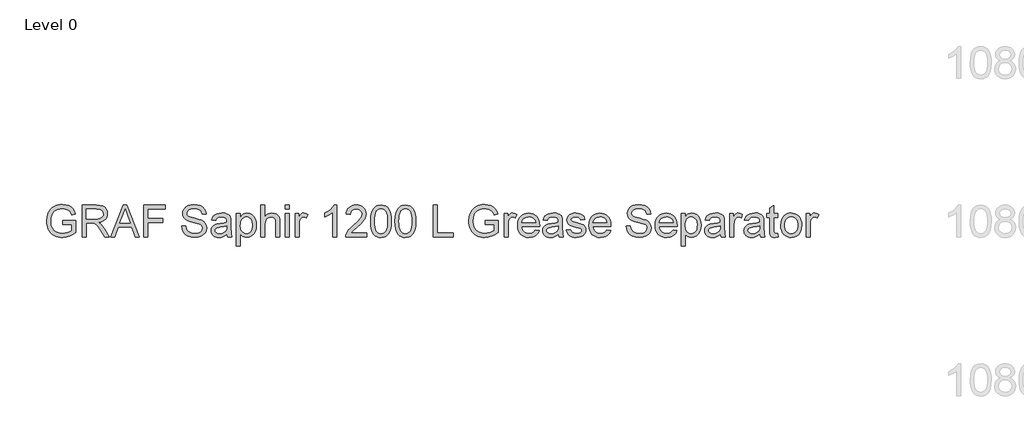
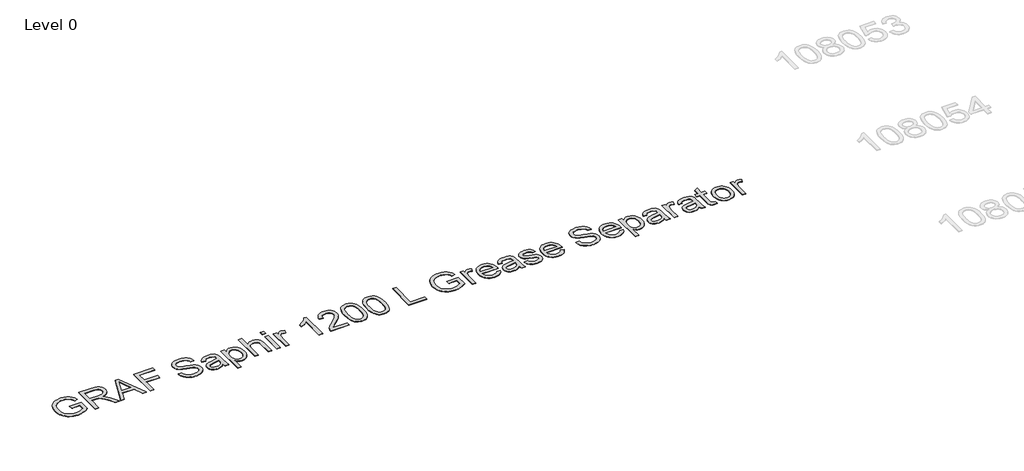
# One storey, part 1 of 15: 1 proxy.
"""IFC4 building model written with IfcOpenShell, lengths in millimetres."""

import ifcopenshell
import ifcopenshell.guid

model = None  # the IFC model being written
_history = None  # IfcOwnerHistory: only IFC2X3 demands one
_inside = {}  # id of a spatial element -> (the spatial element, [elements in it])
_under = {}  # id of a project, library or spatial element -> (it, [spatial elements below it])
_declared = {}  # id of a project -> (the project, [libraries it declares])
_typed = {}  # id of a type object -> (the type object, [elements of that type])
_made_of = {}  # id of a material, layer set ... -> (it, [elements and type objects made of it])


def new_model(schema):
    """Start an empty IFC model of exactly this schema.

    Asked for "IFC4X3", IfcOpenShell would pick the latest addendum, in which some entities
    have other attributes; the version numbers below select the first issue.
    IFC2X3 requires an IfcOwnerHistory on every rooted entity: one is made here for all.
    """
    global model, _history
    if schema == "IFC4X3":
        model = ifcopenshell.file(schema_version=(4, 3, 0, 0))
    else:
        model = ifcopenshell.file(schema=schema)
    _inside.clear()
    _under.clear()
    _declared.clear()
    _typed.clear()
    _made_of.clear()
    _history = None
    if model.schema == "IFC2X3":
        org = make("IfcOrganization", Name="unknown")
        user = make(
            "IfcPersonAndOrganization",
            ThePerson=make("IfcPerson", FamilyName="unknown"),
            TheOrganization=org,
        )
        app = make(
            "IfcApplication",
            ApplicationDeveloper=org,
            Version="unknown",
            ApplicationFullName="unknown",
            ApplicationIdentifier="unknown",
        )
        _history = make(
            "IfcOwnerHistory",
            OwningUser=user,
            OwningApplication=app,
            ChangeAction="ADDED",
            CreationDate=0,
        )
    return model


def make(cls, **values):
    """One entity of the class cls with the attributes given. An attribute that is None is left unset."""
    return model.create_entity(
        cls, **{name: value for name, value in values.items() if value is not None}
    )


def rooted(cls, **values):
    """An entity with a GlobalId (a new one), such as an element, a storey or a relation."""
    return make(cls, GlobalId=ifcopenshell.guid.new(), OwnerHistory=_history, **values)


def si_unit(unit_type, name, prefix=None):
    """IfcSIUnit, for example si_unit("LENGTHUNIT", "METRE", prefix="MILLI")."""
    return make("IfcSIUnit", UnitType=unit_type, Prefix=prefix, Name=name)


def assignment(units):
    """IfcUnitAssignment: the units of a project."""
    return None if units is None else make("IfcUnitAssignment", Units=units)


def point(xyz):
    """IfcCartesianPoint."""
    return None if xyz is None else make("IfcCartesianPoint", Coordinates=xyz)


def direction(xyz):
    """IfcDirection."""
    return None if xyz is None else make("IfcDirection", DirectionRatios=xyz)


def frame(location, z_axis=None, x_axis=None):
    """IfcAxis2Placement3D, a coordinate frame: its origin and axes. An axis left out is left unset."""
    return make(
        "IfcAxis2Placement3D",
        Location=point(location),
        Axis=direction(z_axis),
        RefDirection=direction(x_axis),
    )


def origin():
    """The frame at (0, 0, 0) with its axes left unset."""
    return frame((0.0, 0.0, 0.0))


def origin_with_axes():
    """The frame at (0, 0, 0) with the z axis (0, 0, 1) and the x axis (1, 0, 0) written out."""
    return frame((0.0, 0.0, 0.0), z_axis=(0.0, 0.0, 1.0), x_axis=(1.0, 0.0, 0.0))


def place(relative_to, where):
    """IfcLocalPlacement: puts the frame where relative to a parent placement (None: the world)."""
    return make(
        "IfcLocalPlacement", PlacementRelTo=relative_to, RelativePlacement=where
    )


def context(
    kind, dimensions, precision=None, world=None, true_north=None, identifier=None
):
    """IfcGeometricRepresentationContext, for example the 3D "Model" context."""
    return make(
        "IfcGeometricRepresentationContext",
        ContextIdentifier=identifier,
        ContextType=kind,
        CoordinateSpaceDimension=dimensions,
        Precision=precision,
        WorldCoordinateSystem=world,
        TrueNorth=true_north,
    )


def project(units=None, contexts=None):
    """IfcProject with its units and contexts."""
    return rooted(
        "IfcProject",
        Name="project",
        RepresentationContexts=contexts,
        UnitsInContext=assignment(units),
    )


def spatial(cls, under=None, at=None, **own):
    """A site, building, storey or space (cls), placed at a placement, below another one or the project."""
    s = rooted(cls, ObjectPlacement=at, **own)
    if under is not None:
        _under.setdefault(under.id(), (under, []))[1].append(s)
    return s


def polyline(points):
    """IfcPolyline through the points."""
    return make("IfcPolyline", Points=[point(p) for p in points])


def outline(outer, holes=None, kind="AREA"):
    """IfcArbitraryClosedProfileDef: a profile drawn as a closed curve; with holes, ...WithVoids."""
    if holes is None:
        return make("IfcArbitraryClosedProfileDef", ProfileType=kind, OuterCurve=outer)
    return make(
        "IfcArbitraryProfileDefWithVoids",
        ProfileType=kind,
        OuterCurve=outer,
        InnerCurves=holes,
    )


def extrude(swept, where, along, depth):
    """IfcExtrudedAreaSolid: the profile swept, set in the frame where, extruded along a direction by depth."""
    return make(
        "IfcExtrudedAreaSolid",
        SweptArea=swept,
        Position=where,
        ExtrudedDirection=direction(along),
        Depth=depth,
    )


def shape(context_of_items, identifier, shape_type, items):
    """IfcShapeRepresentation: the items that make up one representation, for example the "Body"."""
    return make(
        "IfcShapeRepresentation",
        ContextOfItems=context_of_items,
        RepresentationIdentifier=identifier,
        RepresentationType=shape_type,
        Items=items,
    )


def made_of(thing, what):
    """Note that an element or type object is made of a material, layer set ...; save() writes the relation."""
    if what is not None:
        _made_of.setdefault(what.id(), (what, []))[1].append(thing)
    return thing


def element(
    cls,
    number,
    at=None,
    inside=None,
    cuts=None,
    type_object=None,
    material=None,
    context=None,
    identifier="Body",
    shape_type=None,
    held_by="IfcProductDefinitionShape",
    body=None,
    shapes=None,
    **own,
):
    """One element of the class cls, such as IfcWall. Its Tag is "e" and its number.

    at: its placement. inside: the storey or other place that contains it. cuts: it is an
    opening in that element (IfcRelVoidsElement). A single representation is given by context,
    identifier, shape_type and body (its items); several are given by shapes. held_by: the class
    of the entity that holds the representations. save() writes the other relations.
    """
    e = rooted(cls, Tag="e%d" % number, ObjectPlacement=at, **own)
    if body is not None:
        shapes = [shape(context, identifier, shape_type, body)]
    if shapes is not None:
        e.Representation = make(held_by, Representations=shapes)
    if inside is not None:
        _inside.setdefault(inside.id(), (inside, []))[1].append(e)
    if cuts is not None:
        rooted(
            "IfcRelVoidsElement", RelatingBuildingElement=cuts, RelatedOpeningElement=e
        )
    if type_object is not None:
        _typed.setdefault(type_object.id(), (type_object, []))[1].append(e)
    return made_of(e, material)


def aggregate(whole, parts):
    """IfcRelAggregates: a whole, such as a stair, and the parts it consists of."""
    return rooted("IfcRelAggregates", RelatingObject=whole, RelatedObjects=parts)


def save(model, path):
    """Write the relations noted so far, then the file.

    IfcRelAggregates (storeys below a building ...), IfcRelContainedInSpatialStructure (elements
    in a storey), IfcRelDefinesByType, IfcRelAssociatesMaterial and IfcRelDeclares: one each for
    every whole, place, type object, material and project.
    """
    for whole, parts in _under.values():
        aggregate(whole, parts)
    for where, things in _inside.values():
        rooted(
            "IfcRelContainedInSpatialStructure",
            RelatedElements=things,
            RelatingStructure=where,
        )
    for kind, things in _typed.values():
        rooted("IfcRelDefinesByType", RelatedObjects=things, RelatingType=kind)
    for what, things in _made_of.values():
        rooted("IfcRelAssociatesMaterial", RelatedObjects=things, RelatingMaterial=what)
    for by, libraries in _declared.values():
        rooted("IfcRelDeclares", RelatingContext=by, RelatedDefinitions=libraries)
    model.write(path)


model = new_model("IFC4")

# Units and contexts
model_context = context("Model", 3, world=origin())
ifc_project = project(units=[si_unit("LENGTHUNIT", "METRE", prefix="MILLI")], contexts=[model_context])

# Site, building, storey
site = spatial("IfcSite", under=ifc_project)
building = spatial("IfcBuilding", under=site)
storey = spatial("IfcBuildingStorey", under=building, Name="Level 0", Elevation=0.0)

# Proxy
placement = place(None, origin())
element("IfcBuildingElementProxy", 1, Name="400mm Arial", ObjectType="400mm Arial", at=placement, inside=storey, context=model_context, shape_type="SweptSolid", body=[
    extrude(outline(polyline([(-14937.8149833, 2305.9861864), (-14937.8149833, 2356.2143415), (-14774.5734793, 2356.2143415), (-14774.5734793, 2206.0203856), (-14814.2434211, 2178.429236), (-14855.1641617, 2158.6371846), (-14897.2375993, 2146.717808), (-14940.3656318, 2142.7446824), (-14969.2167773, 2144.3235093), (-14996.7128907, 2149.05999), (-15022.8539722, 2156.9541245), (-15047.6400216, 2168.0059128), (-15070.2708957, 2182.0498079), (-15089.9464511, 2198.9202631), (-15106.6666877, 2218.6172783), (-15120.4316057, 2241.1408534), (-15131.182957, 2265.770553), (-15138.8624937, 2291.7859414), (-15143.4702157, 2319.1870187), (-15145.006123, 2347.9737848), (-15138.8870191, 2404.5662984), (-15131.2381393, 2431.3818302), (-15120.5297076, 2457.2102119), (-15106.9517963, 2480.9171408), (-15090.6944778, 2501.3683141), (-15071.7577521, 2518.5637317), (-15050.1416192, 2532.5033936), (-15026.3151286, 2543.2762047), (-15000.74733, 2550.9710698), (-14973.4382232, 2555.5879888), (-14944.3878083, 2557.1269618), (-14903.0133466, 2553.5585065), (-14865.8082141, 2542.8531404), (-14834.4769309, 2525.7834158), (-14810.7240167, 2503.1218849), (-14793.1515201, 2473.7771644), (-14780.3614894, 2436.6578711), (-14826.6655698, 2423.610323), (-14837.0030539, 2450.0855639), (-14849.5723554, 2470.0615563), (-14866.2006216, 2485.1201926), (-14888.7149997, 2496.8433655), (-14915.5581226, 2504.3849464), (-14945.1726232, 2506.8988067), (-14979.8393699, 2504.1887427), (-15009.478396, 2496.0585506), (-15033.9793369, 2483.5260373), (-15053.2318279, 2467.6090096), (-15068.0084214, 2449.1290708), (-15079.0816695, 2428.9078238), (-15090.8538933, 2390.9914528), (-15094.7779679, 2350.033924), (-15090.0568157, 2302.0007981), (-15075.8933588, 2262.4780091), (-15052.7167931, 2231.7475998), (-15020.9563142, 2210.091613), (-14983.78797, 2197.2525314), (-14944.3878083, 2192.9728375), (-14909.5984343, 2196.1979363), (-14875.6674516, 2205.8732328), (-14846.2001038, 2219.2028238), (-14824.8016344, 2233.390806), (-14824.8016344, 2305.9861864), (-14937.8149833, 2305.9861864)])), origin_with_axes(), (0.0, 0.0, 1.0), 5.0),
    extrude(outline(polyline([(-14692.9527273, 2149.0232018), (-14692.9527273, 2550.8484424), (-14519.8029349, 2550.8484424), (-14473.2658625, 2548.1383784), (-14439.4084563, 2540.0081863), (-14414.6622607, 2524.9986009), (-14395.4588206, 2501.6503569), (-14383.1347737, 2472.6980439), (-14379.0267581, 2440.8762513), (-14380.7282123, 2420.2380714), (-14385.832575, 2401.2921486), (-14394.3398462, 2384.0384831), (-14406.2500258, 2368.4770747), (-14421.716398, 2355.1045642), (-14440.892247, 2344.4175922), (-14463.7775727, 2336.4161588), (-14490.3723753, 2331.100264), (-14461.8247325, 2309.6159554), (-14421.1124584, 2257.9162724), (-14354.1088843, 2149.0232018), (-14412.4794942, 2149.0232018), (-14464.7677885, 2232.3116855), (-14502.5370066, 2287.4449339), (-14516.5778361, 2303.5213771), (-14529.0735612, 2313.4909791), (-14552.9613654, 2323.055911), (-14582.0976194, 2324.8217446), (-14642.7245723, 2324.8217446), (-14642.7245723, 2149.0232018), (-14692.9527273, 2149.0232018)]), holes=[polyline([(-14642.7245723, 2375.0498997), (-14530.2998345, 2375.0498997), (-14498.0120581, 2376.827996), (-14472.9592942, 2382.1622849), (-14454.0992106, 2391.4083857), (-14440.3894749, 2404.9219177), (-14432.0385536, 2421.268141), (-14429.2549132, 2439.0123159), (-14434.5646766, 2463.5132568), (-14450.493967, 2483.2562572), (-14462.6555327, 2490.8530204), (-14477.9011757, 2496.2792798), (-14517.6446939, 2500.6202873), (-14642.7245723, 2500.6202873), (-14642.7245723, 2375.0498997)])]), origin_with_axes(), (0.0, 0.0, 1.0), 5.0),
    extrude(outline(polyline([(-14337.9220765, 2149.0232018), (-14177.5255266, 2550.8484424), (-14134.7531133, 2550.8484424), (-13974.3565634, 2149.0232018), (-14027.4296726, 2149.0232018), (-14073.4394475, 2274.5935895), (-14238.9372943, 2274.5935895), (-14284.8489673, 2149.0232018), (-14337.9220765, 2149.0232018)]), holes=[polyline([(-14220.4941437, 2324.8217446), (-14091.7844963, 2324.8217446), (-14127.9840846, 2423.610323), (-14156.13932, 2500.6202873), (-14181.1552956, 2432.2432872), (-14220.4941437, 2324.8217446)])]), origin_with_axes(), (0.0, 0.0, 1.0), 5.0),
    extrude(outline(polyline([(-13920.6948431, 2149.0232018), (-13920.6948431, 2550.8484424), (-13650.7185095, 2550.8484424), (-13650.7185095, 2500.6202873), (-13870.466688, 2500.6202873), (-13870.466688, 2381.328419), (-13682.1111064, 2381.328419), (-13682.1111064, 2331.100264), (-13870.466688, 2331.100264), (-13870.466688, 2149.0232018), (-13920.6948431, 2149.0232018)])), origin_with_axes(), (0.0, 0.0, 1.0), 5.0),
    extrude(outline(polyline([(-13443.5273698, 2287.1506283), (-13393.2992148, 2287.1506283), (-13387.5357302, 2259.2774358), (-13377.112407, 2236.8734223), (-13360.8520228, 2219.0924592), (-13337.5773552, 2205.0884179), (-13309.1278143, 2196.0017326), (-13277.3428099, 2192.9728375), (-13249.3592528, 2195.2659686), (-13224.8583119, 2202.1453619), (-13205.0049469, 2213.034669), (-13190.9641174, 2227.3575413), (-13182.6131961, 2243.8018665), (-13179.8295557, 2261.0555321), (-13181.9142203, 2277.8677393), (-13188.1682143, 2292.3990781), (-13200.8724058, 2304.7967013), (-13222.3076634, 2315.2077618), (-13295.4426041, 2334.3866765), (-13343.4512044, 2347.0786053), (-13374.169351, 2359.1573975), (-13399.173064, 2376.0554438), (-13416.8927134, 2396.5342082), (-13427.4509267, 2420.1522323), (-13430.9703311, 2446.4680577), (-13426.6170608, 2475.8863545), (-13413.55725, 2503.3180886), (-13392.1342551, 2526.5682307), (-13362.6914328, 2543.4417516), (-13327.3502358, 2553.7056592), (-13288.2321169, 2557.1269618), (-13245.8521111, 2553.5462437), (-13208.769606, 2542.8040895), (-13178.3089768, 2525.1212282), (-13155.7945987, 2500.7183892), (-13141.5453027, 2471.1161513), (-13135.87992, 2437.8350935), (-13186.1080751, 2437.8350935), (-13195.3296504, 2467.8052134), (-13203.6928345, 2479.6632764), (-13214.557616, 2489.4366747), (-13244.6013123, 2502.5332737), (-13286.2700796, 2506.8988067), (-13328.9198656, 2502.5823247), (-13345.2231694, 2497.1867221), (-13358.178747, 2489.6328784), (-13375.1013187, 2470.5765911), (-13380.742176, 2447.9395856), (-13376.744525, 2428.6380436), (-13364.7515719, 2413.1134234), (-13336.4001328, 2399.2320095), (-13282.7384125, 2385.0562899), (-13227.3599095, 2371.5918089), (-13193.8581224, 2359.8441105), (-13165.2246405, 2341.621689), (-13145.2486482, 2319.1318364), (-13133.5132125, 2292.6198073), (-13129.6014006, 2262.3308563), (-13134.1018237, 2231.3674551), (-13147.6030929, 2202.2434638), (-13169.5533853, 2177.1784372), (-13199.4008778, 2158.39193), (-13235.2938978, 2146.6564943), (-13275.3807726, 2142.7446824), (-13324.5911208, 2146.9630626), (-13365.0949285, 2159.6182033), (-13397.3581794, 2180.7591553), (-13421.8468576, 2210.4349695), (-13437.5676815, 2246.5855069), (-13443.5273698, 2287.1506283)])), origin_with_axes(), (0.0, 0.0, 1.0), 5.0),
    extrude(outline(polyline([(-12872.1821059, 2186.6943181), (-12896.1802747, 2166.1174519), (-12920.889682, 2152.6529708), (-12946.8744136, 2145.2217545), (-12974.6985552, 2142.7446824), (-12997.0627148, 2144.2346045), (-13016.6738908, 2148.7043708), (-13033.5320833, 2156.1539812), (-13047.6372921, 2166.5834357), (-13058.7749195, 2179.3305469), (-13066.7303676, 2193.733127), (-13071.5036365, 2209.7911761), (-13073.0947262, 2227.5046941), (-13070.6912305, 2248.3268151), (-13063.4807434, 2267.2359496), (-13052.3584444, 2283.4227574), (-13038.219513, 2296.077898), (-13021.6035096, 2305.6428299), (-13003.0499943, 2312.5590114), (-12959.5908679, 2320.112855), (-12908.2345414, 2328.0591061), (-12872.4764115, 2337.3787834), (-12872.1821059, 2348.562396), (-12875.6401966, 2370.9786722), (-12886.0144689, 2385.6449011), (-12909.21556, 2396.5342082), (-12941.5401247, 2400.1639772), (-12971.4611936, 2397.7482188), (-12992.356891, 2390.5009435), (-13006.6061869, 2377.0977761), (-13016.5880517, 2356.2143415), (-13066.8162068, 2362.4928609), (-13058.0974035, 2389.9613832), (-13045.0866436, 2411.5437936), (-13026.5699165, 2428.0494324), (-13001.3332116, 2440.2876401), (-12970.4679122, 2447.8660092), (-12935.0654016, 2450.3921323), (-12901.1098934, 2448.1603148), (-12874.1931941, 2441.4648625), (-12853.8983707, 2431.3971586), (-12839.8084903, 2419.0485863), (-12830.4642876, 2403.7814835), (-12824.4064974, 2384.9581881), (-12821.9539508, 2341.0085524), (-12821.9539508, 2278.5176641), (-12819.4033023, 2191.2560549), (-12809.396912, 2149.0232018), (-12859.6250671, 2149.0232018), (-12867.6694201, 2166.4853339), (-12872.1821059, 2186.6943181)]), holes=[polyline([(-12872.1821059, 2287.1506283), (-12905.9291476, 2278.7874443), (-12953.2142467, 2271.7486354), (-12996.4281184, 2263.6061806), (-13007.6730447, 2258.0388997), (-13015.9994405, 2250.3624288), (-13021.1497884, 2241.1653789), (-13022.8665711, 2231.0363613), (-13019.1264375, 2216.1003523), (-13007.9060366, 2203.8621446), (-12989.4506232, 2195.6951643), (-12964.0054519, 2192.9728375), (-12937.0274389, 2195.9772071), (-12913.1886856, 2204.990316), (-12893.8626181, 2218.270856), (-12880.4226626, 2234.0775191), (-12874.4629742, 2250.3624288), (-12872.4764115, 2272.9258578), (-12872.1821059, 2287.1506283)])]), origin_with_axes(), (0.0, 0.0, 1.0), 5.0),
    extrude(outline(polyline([(-12752.8902376, 2036.0098529), (-12752.8902376, 2444.1136129), (-12702.6620825, 2444.1136129), (-12702.6620825, 2394.8664765), (-12686.279071, 2419.1589509), (-12667.9340221, 2436.5107183), (-12646.5478155, 2446.9217788), (-12621.0413305, 2450.3921323), (-12587.0735596, 2445.5360899), (-12557.3732199, 2430.9679629), (-12533.19111, 2407.570668), (-12515.7780289, 2376.227122), (-12505.2566039, 2339.2181933), (-12501.7494622, 2298.8247503), (-12505.710325, 2255.868396), (-12517.5929134, 2217.4492529), (-12537.0170828, 2185.5170957), (-12563.6026883, 2162.021699), (-12594.5660896, 2147.5639366), (-12627.1236461, 2142.7446824), (-12650.2143727, 2145.9697813), (-12670.8280272, 2155.6450777), (-12688.4741002, 2170.2499929), (-12702.6620825, 2188.263948), (-12702.6620825, 2036.0098529), (-12752.8902376, 2036.0098529)]), holes=[polyline([(-12702.6620825, 2294.2139626), (-12697.2296917, 2249.1852064), (-12690.4392032, 2231.7475998), (-12680.9325193, 2217.6945076), (-12656.8852996, 2199.153255), (-12643.1234473, 2194.5179419), (-12628.2027667, 2192.9728375), (-12613.0674882, 2194.5731242), (-12599.0542499, 2199.3739842), (-12586.1630517, 2207.3754176), (-12574.3938935, 2218.5774244), (-12564.5867726, 2233.13942), (-12557.5816863, 2251.2208201), (-12553.3786345, 2272.8216246), (-12551.9776173, 2297.9418335), (-12557.4467963, 2342.725335), (-12564.28327, 2360.2978317), (-12573.8543332, 2374.6574922), (-12597.8647648, 2393.7873559), (-12611.4702673, 2398.5698219), (-12626.1426275, 2400.1639772), (-12640.7690025, 2398.4686543), (-12654.5308548, 2393.3826858), (-12679.4609913, 2373.0388114), (-12689.6114687, 2357.9403212), (-12696.8618097, 2339.7700163), (-12701.2120143, 2318.5278968), (-12702.6620825, 2294.2139626)])]), origin_with_axes(), (0.0, 0.0, 1.0), 5.0),
    extrude(outline(polyline([(-12445.2427877, 2149.0232018), (-12445.2427877, 2550.8484424), (-12395.0146327, 2550.8484424), (-12395.0146327, 2403.1070332), (-12376.5653506, 2423.794264), (-12355.8474629, 2438.5708575), (-12332.8609696, 2447.4368136), (-12307.6058706, 2450.3921323), (-12277.2678687, 2447.1670334), (-12251.197298, 2437.491737), (-12230.6694827, 2422.1265323), (-12216.959747, 2401.8317089), (-12209.2342251, 2373.9462537), (-12206.6590511, 2335.8091535), (-12206.6590511, 2149.0232018), (-12256.8872062, 2149.0232018), (-12256.8872062, 2330.6097546), (-12260.8848572, 2362.0514025), (-12272.8778103, 2383.5847619), (-12292.2038777, 2396.0191734), (-12318.2008721, 2400.1639772), (-12339.4276632, 2397.368074), (-12359.3546046, 2388.9803645), (-12375.8602434, 2375.8101891), (-12386.8231269, 2358.6668881), (-12392.9667562, 2335.8827299), (-12395.0146327, 2305.7899827), (-12395.0146327, 2149.0232018), (-12445.2427877, 2149.0232018)])), origin_with_axes(), (0.0, 0.0, 1.0), 5.0),
    extrude(outline(polyline([(-12137.5953379, 2500.6202873), (-12137.5953379, 2550.8484424), (-12087.3671828, 2550.8484424), (-12087.3671828, 2500.6202873), (-12137.5953379, 2500.6202873)])), origin_with_axes(), (0.0, 0.0, 1.0), 5.0),
    extrude(outline(polyline([(-12137.5953379, 2149.0232018), (-12137.5953379, 2444.1136129), (-12087.3671828, 2444.1136129), (-12087.3671828, 2149.0232018), (-12137.5953379, 2149.0232018)])), origin_with_axes(), (0.0, 0.0, 1.0), 5.0),
    extrude(outline(polyline([(-12012.0249502, 2149.0232018), (-12012.0249502, 2444.1136129), (-11968.0753145, 2444.1136129), (-11968.0753145, 2400.4582828), (-11951.8394558, 2425.7685641), (-11936.8789213, 2440.6800476), (-11921.8693359, 2447.9641111), (-11905.4863244, 2450.3921323), (-11880.4703487, 2446.5171086), (-11855.0619656, 2434.8920375), (-11871.8373846, 2389.8632813), (-11889.4957204, 2397.5888032), (-11907.1540561, 2400.1639772), (-11922.1513788, 2397.6869051), (-11935.5545461, 2390.2556888), (-11946.3825395, 2378.434414), (-11953.6543403, 2362.7871665), (-11959.7611814, 2334.730033), (-11961.7967951, 2304.122251), (-11961.7967951, 2149.0232018), (-12012.0249502, 2149.0232018)])), origin_with_axes(), (0.0, 0.0, 1.0), 5.0),
    extrude(outline(polyline([(-11490.9078413, 2149.0232018), (-11541.1359964, 2149.0232018), (-11541.1359964, 2462.1643561), (-11562.1052701, 2445.2049961), (-11588.7154011, 2428.2701616), (-11641.5923065, 2402.9108294), (-11641.5923065, 2450.3921323), (-11602.1430939, 2471.8519153), (-11567.9668566, 2497.3829258), (-11541.0256318, 2524.532617), (-11523.2814569, 2550.8484424), (-11490.9078413, 2550.8484424), (-11490.9078413, 2149.0232018)])), origin_with_axes(), (0.0, 0.0, 1.0), 5.0),
    extrude(outline(polyline([(-11114.1966782, 2199.2513569), (-11114.1966782, 2149.0232018), (-11377.8944924, 2149.0232018), (-11376.7908464, 2166.7060631), (-11372.4988898, 2183.6531603), (-11360.1135293, 2210.7170124), (-11341.9892097, 2236.9715241), (-11315.7714861, 2264.4523092), (-11279.105914, 2295.1949812), (-11224.9046333, 2343.3384717), (-11192.383865, 2378.8758724), (-11176.1234808, 2407.7178208), (-11170.7033527, 2435.7749543), (-11175.8169124, 2460.9258201), (-11191.1575916, 2481.8337801), (-11214.7388275, 2495.9236605), (-11244.5740573, 2500.6202873), (-11275.9053406, 2496.0340251), (-11300.2468659, 2482.2752385), (-11315.9554271, 2460.423048), (-11321.3878179, 2431.5565741), (-11371.615973, 2437.8350935), (-11367.2964252, 2463.7646428), (-11359.439079, 2486.4200423), (-11348.0439342, 2505.8012921), (-11333.1109908, 2521.9083921), (-11314.9836055, 2534.5696641), (-11294.0051348, 2543.6134298), (-11270.1755785, 2549.0396893), (-11243.4949368, 2550.8484424), (-11216.5751718, 2548.8373542), (-11192.6168569, 2542.8040895), (-11171.619992, 2532.7486483), (-11153.5845772, 2518.6710306), (-11139.0992236, 2501.6135687), (-11128.7525425, 2482.618595), (-11122.5445339, 2461.6861095), (-11120.4751976, 2438.8161122), (-11122.7070151, 2414.7934179), (-11129.4024674, 2391.1876565), (-11141.2850558, 2367.177225), (-11159.0782817, 2341.9405201), (-11187.4419835, 2311.8109847), (-11231.0359999, 2273.1220615), (-11288.8179986, 2224.8068928), (-11311.4795295, 2199.2513569), (-11114.1966782, 2199.2513569)])), origin_with_axes(), (0.0, 0.0, 1.0), 5.0),
    extrude(outline(polyline([(-11063.9685232, 2346.6984606), (-11060.2774405, 2411.0164961), (-11049.2041924, 2462.3115089), (-11030.8591436, 2501.3683141), (-11019.0010806, 2516.6016944), (-11005.3526586, 2528.9717264), (-10989.8678923, 2538.5427897), (-10972.5007964, 2545.3792634), (-10932.1196161, 2550.8484424), (-10901.1684776, 2547.6110809), (-10873.4547006, 2537.8989962), (-10850.2781349, 2522.0923331), (-10832.9386302, 2500.5712364), (-10819.8420312, 2473.519647), (-10809.3941825, 2441.121506), (-10802.5515774, 2399.9800362), (-10800.270709, 2346.6984606), (-10803.9250035, 2282.7483071), (-10814.887887, 2231.5759215), (-10833.1225712, 2192.4823282), (-10844.953043, 2177.2029627), (-10858.592268, 2164.7685512), (-10874.0954284, 2155.1331086), (-10891.5177066, 2148.2506496), (-10932.1196161, 2142.7446824), (-10959.7843421, 2145.1359154), (-10984.3098085, 2152.3096143), (-11005.6960151, 2164.2657792), (-11023.9429621, 2181.0044099), (-11041.4541451, 2211.262704), (-11053.9621329, 2248.9644772), (-11061.4669256, 2294.1097294), (-11063.9685232, 2346.6984606)]), holes=[polyline([(-11013.7403681, 2346.7965624), (-11012.2688401, 2303.1320353), (-11007.8542562, 2267.7877726), (-11000.4966163, 2240.7637744), (-10990.1959204, 2222.0600406), (-10977.7369835, 2209.3343892), (-10963.9046205, 2200.2446383), (-10948.6988314, 2194.7907877), (-10932.1196161, 2192.9728375), (-10915.5404009, 2194.7969191), (-10900.3346117, 2200.2691637), (-10886.5022487, 2209.3895715), (-10874.0433118, 2222.1581425), (-10863.7426159, 2240.8925331), (-10856.384976, 2267.9103999), (-10851.9703921, 2303.2117431), (-10850.4988641, 2346.7965624), (-10851.9213412, 2389.305327), (-10856.1887723, 2424.0272559), (-10863.3011575, 2450.9623494), (-10873.2584969, 2470.1106072), (-10885.5089673, 2483.4585923), (-10899.5007459, 2492.9928673), (-10915.2338325, 2498.7134323), (-10932.7082273, 2500.6202873), (-10949.2016034, 2498.9402929), (-10964.1498751, 2493.9003096), (-10977.5530425, 2485.5003373), (-10989.4111055, 2473.7403762), (-11000.0551579, 2452.8937298), (-11007.6580524, 2424.7875454), (-11012.2197892, 2389.4218229), (-11013.7403681, 2346.7965624)])]), origin_with_axes(), (0.0, 0.0, 1.0), 5.0),
    extrude(outline(polyline([(-10756.3210733, 2346.6984606), (-10752.6299907, 2411.0164961), (-10741.5567426, 2462.3115089), (-10723.2116938, 2501.3683141), (-10711.3536308, 2516.6016944), (-10697.7052088, 2528.9717264), (-10682.2204425, 2538.5427897), (-10664.8533466, 2545.3792634), (-10624.4721663, 2550.8484424), (-10593.5210277, 2547.6110809), (-10565.8072508, 2537.8989962), (-10542.6306851, 2522.0923331), (-10525.2911804, 2500.5712364), (-10512.1945813, 2473.519647), (-10501.7467327, 2441.121506), (-10494.9041276, 2399.9800362), (-10492.6232592, 2346.6984606), (-10496.2775537, 2282.7483071), (-10507.2404371, 2231.5759215), (-10525.4751214, 2192.4823282), (-10537.3055932, 2177.2029627), (-10550.9448182, 2164.7685512), (-10566.4479786, 2155.1331086), (-10583.8702567, 2148.2506496), (-10624.4721663, 2142.7446824), (-10652.1368923, 2145.1359154), (-10676.6623587, 2152.3096143), (-10698.0485653, 2164.2657792), (-10716.2955123, 2181.0044099), (-10733.8066952, 2211.262704), (-10746.3146831, 2248.9644772), (-10753.8194758, 2294.1097294), (-10756.3210733, 2346.6984606)]), holes=[polyline([(-10706.0929183, 2346.7965624), (-10704.6213903, 2303.1320353), (-10700.2068063, 2267.7877726), (-10692.8491664, 2240.7637744), (-10682.5484706, 2222.0600406), (-10670.0895337, 2209.3343892), (-10656.2571707, 2200.2446383), (-10641.0513815, 2194.7907877), (-10624.4721663, 2192.9728375), (-10607.892951, 2194.7969191), (-10592.6871619, 2200.2691637), (-10578.8547989, 2209.3895715), (-10566.395862, 2222.1581425), (-10556.0951661, 2240.8925331), (-10548.7375262, 2267.9103999), (-10544.3229423, 2303.2117431), (-10542.8514143, 2346.7965624), (-10544.2738913, 2389.305327), (-10548.5413225, 2424.0272559), (-10555.6537077, 2450.9623494), (-10565.611047, 2470.1106072), (-10577.8615175, 2483.4585923), (-10591.853296, 2492.9928673), (-10607.5863827, 2498.7134323), (-10625.0607775, 2500.6202873), (-10641.5541536, 2498.9402929), (-10656.5024253, 2493.9003096), (-10669.9055927, 2485.5003373), (-10681.7636557, 2473.7403762), (-10692.407708, 2452.8937298), (-10700.0106026, 2424.7875454), (-10704.5723394, 2389.4218229), (-10706.0929183, 2346.7965624)])]), origin_with_axes(), (0.0, 0.0, 1.0), 5.0),
    extrude(outline(polyline([(-10272.8750807, 2149.0232018), (-10272.8750807, 2550.8484424), (-10222.6469257, 2550.8484424), (-10222.6469257, 2199.2513569), (-10021.7343054, 2199.2513569), (-10021.7343054, 2149.0232018), (-10272.8750807, 2149.0232018)])), origin_with_axes(), (0.0, 0.0, 1.0), 5.0),
    extrude(outline(polyline([(-9619.9090648, 2305.9861864), (-9619.9090648, 2356.2143415), (-9456.6675608, 2356.2143415), (-9456.6675608, 2206.0203856), (-9496.3375026, 2178.429236), (-9537.2582432, 2158.6371846), (-9579.3316807, 2146.717808), (-9622.4597133, 2142.7446824), (-9651.3108587, 2144.3235093), (-9678.8069722, 2149.05999), (-9704.9480536, 2156.9541245), (-9729.7341031, 2168.0059128), (-9752.3649771, 2182.0498079), (-9772.0405325, 2198.9202631), (-9788.7607692, 2218.6172783), (-9802.5256872, 2241.1408534), (-9813.2770385, 2265.770553), (-9820.9565751, 2291.7859414), (-9825.5642971, 2319.1870187), (-9827.1002045, 2347.9737848), (-9820.9811006, 2404.5662984), (-9813.3322208, 2431.3818302), (-9802.623789, 2457.2102119), (-9789.0458777, 2480.9171408), (-9772.7885592, 2501.3683141), (-9753.8518335, 2518.5637317), (-9732.2357006, 2532.5033936), (-9708.4092101, 2543.2762047), (-9682.8414114, 2550.9710698), (-9655.5323046, 2555.5879888), (-9626.4818898, 2557.1269618), (-9585.107428, 2553.5585065), (-9547.9022956, 2542.8531404), (-9516.5710123, 2525.7834158), (-9492.8180982, 2503.1218849), (-9475.2456015, 2473.7771644), (-9462.4555708, 2436.6578711), (-9508.7596513, 2423.610323), (-9519.0971354, 2450.0855639), (-9531.6664369, 2470.0615563), (-9548.294703, 2485.1201926), (-9570.8090812, 2496.8433655), (-9597.6522041, 2504.3849464), (-9627.2667047, 2506.8988067), (-9661.9334514, 2504.1887427), (-9691.5724774, 2496.0585506), (-9716.0734183, 2483.5260373), (-9735.3259094, 2467.6090096), (-9750.1025029, 2449.1290708), (-9761.1757509, 2428.9078238), (-9772.9479748, 2390.9914528), (-9776.8720494, 2350.033924), (-9772.1508971, 2302.0007981), (-9757.9874403, 2262.4780091), (-9734.8108746, 2231.7475998), (-9703.0503957, 2210.091613), (-9665.8820514, 2197.2525314), (-9626.4818898, 2192.9728375), (-9591.6925157, 2196.1979363), (-9557.7615331, 2205.8732328), (-9528.2941852, 2219.2028238), (-9506.8957159, 2233.390806), (-9506.8957159, 2305.9861864), (-9619.9090648, 2305.9861864)])), origin_with_axes(), (0.0, 0.0, 1.0), 5.0),
    extrude(outline(polyline([(-9381.3253282, 2149.0232018), (-9381.3253282, 2444.1136129), (-9337.3756925, 2444.1136129), (-9337.3756925, 2400.4582828), (-9321.1398338, 2425.7685641), (-9306.1792993, 2440.6800476), (-9291.1697139, 2447.9641111), (-9274.7867024, 2450.3921323), (-9249.7707267, 2446.5171086), (-9224.3623436, 2434.8920375), (-9241.1377625, 2389.8632813), (-9258.7960983, 2397.5888032), (-9276.4544341, 2400.1639772), (-9291.4517567, 2397.6869051), (-9304.8549241, 2390.2556888), (-9315.6829175, 2378.434414), (-9322.9547183, 2362.7871665), (-9329.0615594, 2334.730033), (-9331.0971731, 2304.122251), (-9331.0971731, 2149.0232018), (-9381.3253282, 2149.0232018)])), origin_with_axes(), (0.0, 0.0, 1.0), 5.0),
    extrude(outline(polyline([(-8986.3672181, 2236.9224732), (-8937.1200817, 2230.6439538), (-8944.6708597, 2210.9193475), (-8954.8642566, 2193.5369232), (-8967.7002726, 2178.496681), (-8983.1789075, 2165.7986208), (-9001.1407459, 2155.7125228), (-9021.4263723, 2148.508167), (-9068.9689888, 2142.7446824), (-9100.1347252, 2145.2309516), (-9127.9036844, 2152.689759), (-9152.2758666, 2165.1211048), (-9173.2512717, 2182.5249888), (-9190.1186612, 2204.4170332), (-9202.1667965, 2230.31286), (-9209.3956777, 2260.2124692), (-9211.8053048, 2294.1158607), (-9209.3711523, 2329.1688835), (-9202.0686947, 2360.0648397), (-9189.897932, 2386.8037294), (-9172.8588642, 2409.3855525), (-9151.9386414, 2427.3259312), (-9128.1244136, 2440.1404873), (-9101.4161808, 2447.829221), (-9071.8139429, 2450.3921323), (-9043.1651325, 2447.8353524), (-9017.257043, 2440.1650128), (-8994.0896744, 2427.3811135), (-8973.6630266, 2409.4836544), (-8956.9887751, 2386.9508822), (-8945.0785956, 2360.2610435), (-8937.9324878, 2329.4141382), (-8935.5504519, 2294.4101663), (-8935.8447575, 2280.8721089), (-9161.5771497, 2280.8721089), (-9158.6678163, 2260.8286715), (-9152.8828719, 2243.274569), (-9144.2223166, 2228.2098013), (-9132.6861504, 2215.6343684), (-9118.9120353, 2205.7199486), (-9103.5376336, 2198.6382202), (-9067.9879701, 2192.9728375), (-9041.2552118, 2195.5970624), (-9018.7408337, 2203.4697371), (-9000.4448358, 2217.0813709), (-8986.3672181, 2236.9224732)]), holes=[polyline([(-9161.5771497, 2331.100264), (-8985.778607, 2331.100264), (-8992.5721611, 2357.6368186), (-9005.8894894, 2376.6195295), (-9019.5869623, 2386.9202254), (-9035.1728962, 2394.2778653), (-9052.6472909, 2398.6924492), (-9072.0101466, 2400.1639772), (-9105.8675529, 2395.4673504), (-9133.8633727, 2381.37747), (-9153.3243303, 2359.4149149), (-9161.5771497, 2331.100264)])]), origin_with_axes(), (0.0, 0.0, 1.0), 5.0),
    extrude(outline(polyline([(-8696.9667153, 2186.6943181), (-8720.9648841, 2166.1174519), (-8745.6742914, 2152.6529708), (-8771.659023, 2145.2217545), (-8799.4831646, 2142.7446824), (-8821.8473242, 2144.2346045), (-8841.4585002, 2148.7043708), (-8858.3166927, 2156.1539812), (-8872.4219015, 2166.5834357), (-8883.5595289, 2179.3305469), (-8891.5149771, 2193.733127), (-8896.2882459, 2209.7911761), (-8897.8793356, 2227.5046941), (-8895.4758399, 2248.3268151), (-8888.2653528, 2267.2359496), (-8877.1430538, 2283.4227574), (-8863.0041224, 2296.077898), (-8846.388119, 2305.6428299), (-8827.8346037, 2312.5590114), (-8784.3754773, 2320.112855), (-8733.0191508, 2328.0591061), (-8697.2610209, 2337.3787834), (-8696.9667153, 2348.562396), (-8700.424806, 2370.9786722), (-8710.7990783, 2385.6449011), (-8734.0001695, 2396.5342082), (-8766.3247341, 2400.1639772), (-8796.245803, 2397.7482188), (-8817.1415004, 2390.5009435), (-8831.3907963, 2377.0977761), (-8841.3726611, 2356.2143415), (-8891.6008162, 2362.4928609), (-8882.8820129, 2389.9613832), (-8869.871253, 2411.5437936), (-8851.3545259, 2428.0494324), (-8826.117821, 2440.2876401), (-8795.2525217, 2447.8660092), (-8759.850011, 2450.3921323), (-8725.8945028, 2448.1603148), (-8698.9778035, 2441.4648625), (-8678.6829801, 2431.3971586), (-8664.5930997, 2419.0485863), (-8655.248897, 2403.7814835), (-8649.1911068, 2384.9581881), (-8646.7385602, 2341.0085524), (-8646.7385602, 2278.5176641), (-8644.1879117, 2191.2560549), (-8634.1815214, 2149.0232018), (-8684.4096765, 2149.0232018), (-8692.4540295, 2166.4853339), (-8696.9667153, 2186.6943181)]), holes=[polyline([(-8696.9667153, 2287.1506283), (-8730.713757, 2278.7874443), (-8777.9988561, 2271.7486354), (-8821.2127278, 2263.6061806), (-8832.4576541, 2258.0388997), (-8840.7840499, 2250.3624288), (-8845.9343979, 2241.1653789), (-8847.6511805, 2231.0363613), (-8843.9110469, 2216.1003523), (-8832.690646, 2203.8621446), (-8814.2352326, 2195.6951643), (-8788.7900613, 2192.9728375), (-8761.8120483, 2195.9772071), (-8737.973295, 2204.990316), (-8718.6472275, 2218.270856), (-8705.207272, 2234.0775191), (-8699.2475836, 2250.3624288), (-8697.2610209, 2272.9258578), (-8696.9667153, 2287.1506283)])]), origin_with_axes(), (0.0, 0.0, 1.0), 5.0),
    extrude(outline(polyline([(-8596.5104051, 2236.9224732), (-8546.28225, 2243.2009926), (-8538.3605244, 2221.7166841), (-8523.032108, 2205.9222837), (-8500.1988988, 2196.2101991), (-8469.7627951, 2192.9728375), (-8439.6945733, 2195.9404189), (-8418.5536213, 2204.8431632), (-8406.0456335, 2217.7435585), (-8401.8763042, 2232.704093), (-8406.070159, 2245.5063864), (-8418.6517232, 2255.267522), (-8470.3514062, 2269.5903944), (-8545.9879445, 2294.1649117), (-8565.1300709, 2306.513484), (-8578.9992222, 2322.8597073), (-8587.4237198, 2342.1612493), (-8590.2318857, 2363.3757777), (-8587.9755428, 2382.8367352), (-8581.2065141, 2400.8016393), (-8570.5379363, 2416.5592514), (-8556.5829459, 2429.3983331), (-8524.6507887, 2444.2607657), (-8503.7673541, 2448.8592906), (-8481.436917, 2450.3921323), (-8448.7444704, 2447.9273229), (-8420.3194549, 2440.5328948), (-8397.4617203, 2428.9323492), (-8381.4711162, 2413.8491874), (-8370.8761147, 2394.1675007), (-8364.2051879, 2368.7713803), (-8414.433343, 2362.4928609), (-8420.773176, 2378.2995239), (-8433.3179521, 2390.2066379), (-8452.1902984, 2397.6746424), (-8477.5128424, 2400.1639772), (-8506.3547908, 2397.785007), (-8525.5827565, 2390.6480963), (-8536.3984871, 2380.3474004), (-8540.0037307, 2368.4770747), (-8534.0195169, 2353.8598967), (-8515.2820606, 2342.7743859), (-8472.019138, 2332.0812826), (-8398.2955861, 2308.4387331), (-8378.8223658, 2297.1324931), (-8364.0580351, 2281.6569238), (-8354.7506206, 2261.9629743), (-8351.6481491, 2238.0015937), (-8355.2901809, 2213.2308727), (-8366.2162761, 2189.9316797), (-8384.009502, 2169.9311619), (-8408.2529255, 2155.0564665), (-8437.5363323, 2145.8226285), (-8470.4495081, 2142.7446824), (-8497.4827034, 2144.2284732), (-8521.0945961, 2148.6798453), (-8541.2851863, 2156.0987989), (-8558.0544739, 2166.4853339), (-8571.7519468, 2179.7903994), (-8582.727093, 2195.9649444), (-8590.9799125, 2215.008969), (-8596.5104051, 2236.9224732)])), origin_with_axes(), (0.0, 0.0, 1.0), 5.0),
    extrude(outline(polyline([(-8088.5389462, 2236.9224732), (-8039.2918098, 2230.6439538), (-8046.8425877, 2210.9193475), (-8057.0359847, 2193.5369232), (-8069.8720006, 2178.496681), (-8085.3506356, 2165.7986208), (-8103.312474, 2155.7125228), (-8123.5981003, 2148.508167), (-8171.1407168, 2142.7446824), (-8202.3064532, 2145.2309516), (-8230.0754125, 2152.689759), (-8254.4475946, 2165.1211048), (-8275.4229997, 2182.5249888), (-8292.2903892, 2204.4170332), (-8304.3385246, 2230.31286), (-8311.5674058, 2260.2124692), (-8313.9770328, 2294.1158607), (-8311.5428803, 2329.1688835), (-8304.2404227, 2360.0648397), (-8292.06966, 2386.8037294), (-8275.0305923, 2409.3855525), (-8254.1103695, 2427.3259312), (-8230.2961417, 2440.1404873), (-8203.5879088, 2447.829221), (-8173.9856709, 2450.3921323), (-8145.3368606, 2447.8353524), (-8119.428771, 2440.1650128), (-8096.2614024, 2427.3811135), (-8075.8347546, 2409.4836544), (-8059.1605032, 2386.9508822), (-8047.2503236, 2360.2610435), (-8040.1042158, 2329.4141382), (-8037.7221799, 2294.4101663), (-8038.0164855, 2280.8721089), (-8263.7488778, 2280.8721089), (-8260.8395443, 2260.8286715), (-8255.0545999, 2243.274569), (-8246.3940446, 2228.2098013), (-8234.8578784, 2215.6343684), (-8221.0837634, 2205.7199486), (-8205.7093616, 2198.6382202), (-8170.1596982, 2192.9728375), (-8143.4269399, 2195.5970624), (-8120.9125618, 2203.4697371), (-8102.6165639, 2217.0813709), (-8088.5389462, 2236.9224732)]), holes=[polyline([(-8263.7488778, 2331.100264), (-8087.950335, 2331.100264), (-8094.7438892, 2357.6368186), (-8108.0612174, 2376.6195295), (-8121.7586903, 2386.9202254), (-8137.3446242, 2394.2778653), (-8154.819019, 2398.6924492), (-8174.1818747, 2400.1639772), (-8208.039281, 2395.4673504), (-8236.0351008, 2381.37747), (-8255.4960583, 2359.4149149), (-8263.7488778, 2331.100264)])]), origin_with_axes(), (0.0, 0.0, 1.0), 5.0),
    extrude(outline(polyline([(-7843.088079, 2287.1506283), (-7792.8599239, 2287.1506283), (-7787.0964393, 2259.2774358), (-7776.6731161, 2236.8734223), (-7760.412732, 2219.0924592), (-7737.1380644, 2205.0884179), (-7708.6885234, 2196.0017326), (-7676.903519, 2192.9728375), (-7648.9199619, 2195.2659686), (-7624.4190211, 2202.1453619), (-7604.5656561, 2213.034669), (-7590.5248266, 2227.3575413), (-7582.1739053, 2243.8018665), (-7579.3902649, 2261.0555321), (-7581.4749295, 2277.8677393), (-7587.7289234, 2292.3990781), (-7600.433115, 2304.7967013), (-7621.8683726, 2315.2077618), (-7695.0033132, 2334.3866765), (-7743.0119136, 2347.0786053), (-7773.7300602, 2359.1573975), (-7798.7337731, 2376.0554438), (-7816.4534226, 2396.5342082), (-7827.0116358, 2420.1522323), (-7830.5310402, 2446.4680577), (-7826.17777, 2475.8863545), (-7813.1179591, 2503.3180886), (-7791.6949643, 2526.5682307), (-7762.2521419, 2543.4417516), (-7726.9109449, 2553.7056592), (-7687.7928261, 2557.1269618), (-7645.4128203, 2553.5462437), (-7608.3303151, 2542.8040895), (-7577.8696859, 2525.1212282), (-7555.3553078, 2500.7183892), (-7541.1060119, 2471.1161513), (-7535.4406292, 2437.8350935), (-7585.6687842, 2437.8350935), (-7594.8903596, 2467.8052134), (-7603.2535436, 2479.6632764), (-7614.1183252, 2489.4366747), (-7644.1620215, 2502.5332737), (-7685.8307888, 2506.8988067), (-7728.4805748, 2502.5823247), (-7744.7838785, 2497.1867221), (-7757.7394561, 2489.6328784), (-7774.6620279, 2470.5765911), (-7780.3028852, 2447.9395856), (-7776.3052341, 2428.6380436), (-7764.3122811, 2413.1134234), (-7735.960842, 2399.2320095), (-7682.2991216, 2385.0562899), (-7626.9206186, 2371.5918089), (-7593.4188316, 2359.8441105), (-7564.7853497, 2341.621689), (-7544.8093573, 2319.1318364), (-7533.0739217, 2292.6198073), (-7529.1621098, 2262.3308563), (-7533.6625329, 2231.3674551), (-7547.1638021, 2202.2434638), (-7569.1140945, 2177.1784372), (-7598.961587, 2158.39193), (-7634.854607, 2146.6564943), (-7674.9414817, 2142.7446824), (-7724.15183, 2146.9630626), (-7764.6556376, 2159.6182033), (-7796.9188886, 2180.7591553), (-7821.4075668, 2210.4349695), (-7837.1283907, 2246.5855069), (-7843.088079, 2287.1506283)])), origin_with_axes(), (0.0, 0.0, 1.0), 5.0),
    extrude(outline(polyline([(-7253.4958681, 2236.9224732), (-7204.2487316, 2230.6439538), (-7211.7995096, 2210.9193475), (-7221.9929065, 2193.5369232), (-7234.8289225, 2178.496681), (-7250.3075574, 2165.7986208), (-7268.2693959, 2155.7125228), (-7288.5550222, 2148.508167), (-7336.0976387, 2142.7446824), (-7367.2633751, 2145.2309516), (-7395.0323343, 2152.689759), (-7419.4045165, 2165.1211048), (-7440.3799216, 2182.5249888), (-7457.2473111, 2204.4170332), (-7469.2954464, 2230.31286), (-7476.5243276, 2260.2124692), (-7478.9339547, 2294.1158607), (-7476.4998022, 2329.1688835), (-7469.1973446, 2360.0648397), (-7457.0265819, 2386.8037294), (-7439.9875142, 2409.3855525), (-7419.0672914, 2427.3259312), (-7395.2530635, 2440.1404873), (-7368.5448307, 2447.829221), (-7338.9425928, 2450.3921323), (-7310.2937824, 2447.8353524), (-7284.3856929, 2440.1650128), (-7261.2183243, 2427.3811135), (-7240.7916765, 2409.4836544), (-7224.1174251, 2386.9508822), (-7212.2072455, 2360.2610435), (-7205.0611377, 2329.4141382), (-7202.6791018, 2294.4101663), (-7202.9734074, 2280.8721089), (-7428.7057996, 2280.8721089), (-7425.7964662, 2260.8286715), (-7420.0115218, 2243.274569), (-7411.3509665, 2228.2098013), (-7399.8148003, 2215.6343684), (-7386.0406852, 2205.7199486), (-7370.6662835, 2198.6382202), (-7335.1166201, 2192.9728375), (-7308.3838617, 2195.5970624), (-7285.8694836, 2203.4697371), (-7267.5734857, 2217.0813709), (-7253.4958681, 2236.9224732)]), holes=[polyline([(-7428.7057996, 2331.100264), (-7252.9072569, 2331.100264), (-7259.7008111, 2357.6368186), (-7273.0181393, 2376.6195295), (-7286.7156122, 2386.9202254), (-7302.3015461, 2394.2778653), (-7319.7759409, 2398.6924492), (-7339.1387965, 2400.1639772), (-7372.9962028, 2395.4673504), (-7400.9920227, 2381.37747), (-7420.4529802, 2359.4149149), (-7428.7057996, 2331.100264)])]), origin_with_axes(), (0.0, 0.0, 1.0), 5.0),
    extrude(outline(polyline([(-7152.4509467, 2036.0098529), (-7152.4509467, 2444.1136129), (-7102.2227916, 2444.1136129), (-7102.2227916, 2394.8664765), (-7085.8397801, 2419.1589509), (-7067.4947313, 2436.5107183), (-7046.1085247, 2446.9217788), (-7020.6020397, 2450.3921323), (-6986.6342688, 2445.5360899), (-6956.933929, 2430.9679629), (-6932.7518192, 2407.570668), (-6915.3387381, 2376.227122), (-6904.817313, 2339.2181933), (-6901.3101713, 2298.8247503), (-6905.2710342, 2255.868396), (-6917.1536226, 2217.4492529), (-6936.577792, 2185.5170957), (-6963.1633975, 2162.021699), (-6994.1267987, 2147.5639366), (-7026.6843553, 2142.7446824), (-7049.7750819, 2145.9697813), (-7070.3887363, 2155.6450777), (-7088.0348094, 2170.2499929), (-7102.2227916, 2188.263948), (-7102.2227916, 2036.0098529), (-7152.4509467, 2036.0098529)]), holes=[polyline([(-7102.2227916, 2294.2139626), (-7096.7904009, 2249.1852064), (-7089.9999124, 2231.7475998), (-7080.4932285, 2217.6945076), (-7056.4460087, 2199.153255), (-7042.6841564, 2194.5179419), (-7027.7634758, 2192.9728375), (-7012.6281974, 2194.5731242), (-6998.6149591, 2199.3739842), (-6985.7237608, 2207.3754176), (-6973.9546027, 2218.5774244), (-6964.1474818, 2233.13942), (-6957.1423955, 2251.2208201), (-6952.9393437, 2272.8216246), (-6951.5383264, 2297.9418335), (-6957.0075054, 2342.725335), (-6963.8439792, 2360.2978317), (-6973.4150424, 2374.6574922), (-6997.425474, 2393.7873559), (-7011.0309764, 2398.5698219), (-7025.7033367, 2400.1639772), (-7040.3297116, 2398.4686543), (-7054.0915639, 2393.3826858), (-7079.0217005, 2373.0388114), (-7089.1721779, 2357.9403212), (-7096.4225189, 2339.7700163), (-7100.7727235, 2318.5278968), (-7102.2227916, 2294.2139626)])]), origin_with_axes(), (0.0, 0.0, 1.0), 5.0),
    extrude(outline(polyline([(-6656.4479154, 2186.6943181), (-6680.4460842, 2166.1174519), (-6705.1554915, 2152.6529708), (-6731.1402231, 2145.2217545), (-6758.9643647, 2142.7446824), (-6781.3285243, 2144.2346045), (-6800.9397003, 2148.7043708), (-6817.7978928, 2156.1539812), (-6831.9031016, 2166.5834357), (-6843.040729, 2179.3305469), (-6850.9961771, 2193.733127), (-6855.769446, 2209.7911761), (-6857.3605357, 2227.5046941), (-6854.95704, 2248.3268151), (-6847.7465529, 2267.2359496), (-6836.6242539, 2283.4227574), (-6822.4853225, 2296.077898), (-6805.8693191, 2305.6428299), (-6787.3158038, 2312.5590114), (-6743.8566774, 2320.112855), (-6692.5003509, 2328.0591061), (-6656.742221, 2337.3787834), (-6656.4479154, 2348.562396), (-6659.9060061, 2370.9786722), (-6670.2802784, 2385.6449011), (-6693.4813695, 2396.5342082), (-6725.8059342, 2400.1639772), (-6755.7270031, 2397.7482188), (-6776.6227005, 2390.5009435), (-6790.8719964, 2377.0977761), (-6800.8538612, 2356.2143415), (-6851.0820163, 2362.4928609), (-6842.363213, 2389.9613832), (-6829.3524531, 2411.5437936), (-6810.835726, 2428.0494324), (-6785.5990211, 2440.2876401), (-6754.7337217, 2447.8660092), (-6719.3312111, 2450.3921323), (-6685.3757029, 2448.1603148), (-6658.4590036, 2441.4648625), (-6638.1641802, 2431.3971586), (-6624.0742998, 2419.0485863), (-6614.7300971, 2403.7814835), (-6608.6723069, 2384.9581881), (-6606.2197603, 2341.0085524), (-6606.2197603, 2278.5176641), (-6603.6691118, 2191.2560549), (-6593.6627215, 2149.0232018), (-6643.8908766, 2149.0232018), (-6651.9352296, 2166.4853339), (-6656.4479154, 2186.6943181)]), holes=[polyline([(-6656.4479154, 2287.1506283), (-6690.1949571, 2278.7874443), (-6737.4800562, 2271.7486354), (-6780.6939279, 2263.6061806), (-6791.9388542, 2258.0388997), (-6800.26525, 2250.3624288), (-6805.4155979, 2241.1653789), (-6807.1323806, 2231.0363613), (-6803.392247, 2216.1003523), (-6792.1718461, 2203.8621446), (-6773.7164327, 2195.6951643), (-6748.2712614, 2192.9728375), (-6721.2932484, 2195.9772071), (-6697.4544951, 2204.990316), (-6678.1284276, 2218.270856), (-6664.6884721, 2234.0775191), (-6658.7287837, 2250.3624288), (-6656.742221, 2272.9258578), (-6656.4479154, 2287.1506283)])]), origin_with_axes(), (0.0, 0.0, 1.0), 5.0),
    extrude(outline(polyline([(-6537.1560471, 2149.0232018), (-6537.1560471, 2444.1136129), (-6493.2064114, 2444.1136129), (-6493.2064114, 2400.4582828), (-6476.9705526, 2425.7685641), (-6462.0100182, 2440.6800476), (-6447.0004328, 2447.9641111), (-6430.6174213, 2450.3921323), (-6405.6014456, 2446.5171086), (-6380.1930624, 2434.8920375), (-6396.9684814, 2389.8632813), (-6414.6268172, 2397.5888032), (-6432.285153, 2400.1639772), (-6447.2824756, 2397.6869051), (-6460.685643, 2390.2556888), (-6471.5136364, 2378.434414), (-6478.7854372, 2362.7871665), (-6484.8922783, 2334.730033), (-6486.927892, 2304.122251), (-6486.927892, 2149.0232018), (-6537.1560471, 2149.0232018)])), origin_with_axes(), (0.0, 0.0, 1.0), 5.0),
    extrude(outline(polyline([(-6160.444884, 2186.6943181), (-6184.4430528, 2166.1174519), (-6209.1524602, 2152.6529708), (-6235.1371918, 2145.2217545), (-6262.9613333, 2142.7446824), (-6285.3254929, 2144.2346045), (-6304.936669, 2148.7043708), (-6321.7948614, 2156.1539812), (-6335.9000702, 2166.5834357), (-6347.0376976, 2179.3305469), (-6354.9931458, 2193.733127), (-6359.7664147, 2209.7911761), (-6361.3575043, 2227.5046941), (-6358.9540086, 2248.3268151), (-6351.7435215, 2267.2359496), (-6340.6212225, 2283.4227574), (-6326.4822912, 2296.077898), (-6309.8662877, 2305.6428299), (-6291.3127724, 2312.5590114), (-6247.8536461, 2320.112855), (-6196.4973195, 2328.0591061), (-6160.7391896, 2337.3787834), (-6160.444884, 2348.562396), (-6163.9029748, 2370.9786722), (-6174.277247, 2385.6449011), (-6197.4783382, 2396.5342082), (-6229.8029028, 2400.1639772), (-6259.7239718, 2397.7482188), (-6280.6196691, 2390.5009435), (-6294.868965, 2377.0977761), (-6304.8508298, 2356.2143415), (-6355.0789849, 2362.4928609), (-6346.3601816, 2389.9613832), (-6333.3494217, 2411.5437936), (-6314.8326946, 2428.0494324), (-6289.5959898, 2440.2876401), (-6258.7306904, 2447.8660092), (-6223.3281797, 2450.3921323), (-6189.3726716, 2448.1603148), (-6162.4559722, 2441.4648625), (-6142.1611488, 2431.3971586), (-6128.0712684, 2419.0485863), (-6118.7270657, 2403.7814835), (-6112.6692756, 2384.9581881), (-6110.2167289, 2341.0085524), (-6110.2167289, 2278.5176641), (-6107.6660804, 2191.2560549), (-6097.6596902, 2149.0232018), (-6147.8878452, 2149.0232018), (-6155.9321982, 2166.4853339), (-6160.444884, 2186.6943181)]), holes=[polyline([(-6160.444884, 2287.1506283), (-6194.1919257, 2278.7874443), (-6241.4770248, 2271.7486354), (-6284.6908965, 2263.6061806), (-6295.9358228, 2258.0388997), (-6304.2622186, 2250.3624288), (-6309.4125666, 2241.1653789), (-6311.1293492, 2231.0363613), (-6307.3892156, 2216.1003523), (-6296.1688148, 2203.8621446), (-6277.7134013, 2195.6951643), (-6252.26823, 2192.9728375), (-6225.290217, 2195.9772071), (-6201.4514637, 2204.990316), (-6182.1253962, 2218.270856), (-6168.6854407, 2234.0775191), (-6162.7257524, 2250.3624288), (-6160.7391896, 2272.9258578), (-6160.444884, 2287.1506283)])]), origin_with_axes(), (0.0, 0.0, 1.0), 5.0),
    extrude(outline(polyline([(-5934.4181862, 2190.9126983), (-5928.1396668, 2147.5516738), (-5965.7126812, 2142.7446824), (-5989.8212146, 2144.8293471), (-6007.7983815, 2151.083341), (-6020.502573, 2160.7218493), (-6028.7921807, 2172.960057), (-6033.3539174, 2193.9783816), (-6034.8744963, 2229.9572408), (-6034.8744963, 2393.8854578), (-6072.5456126, 2393.8854578), (-6072.5456126, 2444.1136129), (-6034.8744963, 2444.1136129), (-6034.8744963, 2515.8260765), (-5984.6463412, 2545.354738), (-5984.6463412, 2444.1136129), (-5934.4181862, 2444.1136129), (-5934.4181862, 2393.8854578), (-5984.6463412, 2393.8854578), (-5984.6463412, 2231.4287687), (-5981.9975909, 2205.5298763), (-5973.4136776, 2196.3573519), (-5956.2949021, 2192.9728375), (-5934.4181862, 2190.9126983)])), origin_with_axes(), (0.0, 0.0, 1.0), 5.0),
    extrude(outline(polyline([(-5896.7470699, 2296.5684074), (-5894.0308745, 2334.7852153), (-5885.8822883, 2367.7167852), (-5872.3013113, 2395.3631172), (-5853.2879435, 2417.7242111), (-5834.145817, 2432.0164266), (-5813.0171278, 2442.225152), (-5789.9018757, 2448.3503872), (-5764.8000609, 2450.3921323), (-5737.0893496, 2447.9058631), (-5712.0335201, 2440.4470557), (-5689.6325723, 2428.0157099), (-5669.8865062, 2410.6118259), (-5653.7702091, 2388.8240147), (-5642.2585683, 2363.2408876), (-5635.3515839, 2333.8624446), (-5633.0492557, 2300.6886857), (-5637.1204831, 2249.9454958), (-5649.3341654, 2211.3178863), (-5669.3346832, 2182.3900988), (-5696.7664173, 2160.7463747), (-5729.3484993, 2147.2451055), (-5764.8000609, 2142.7446824), (-5792.9154424, 2145.2217545), (-5818.2042639, 2152.6529708), (-5840.6665254, 2165.0383313), (-5860.3022269, 2182.3778361), (-5876.2468457, 2204.3771794), (-5887.6358591, 2230.7420557), (-5894.4692672, 2261.472465), (-5896.7470699, 2296.5684074)]), holes=[polyline([(-5846.5189148, 2296.6665092), (-5845.0657809, 2272.3035241), (-5840.7063793, 2251.2085573), (-5833.4407099, 2233.381609), (-5823.2687727, 2218.822679), (-5810.8956749, 2207.5133734), (-5797.0265237, 2199.4352979), (-5781.661319, 2194.5884526), (-5764.8000609, 2192.9728375), (-5748.0246419, 2194.5976497), (-5732.7207509, 2199.4720861), (-5718.8883879, 2207.5961468), (-5706.5275529, 2218.9698318), (-5696.3556157, 2233.6728489), (-5689.0899463, 2251.7849058), (-5684.7305447, 2273.3060025), (-5683.2774108, 2298.2361391), (-5684.7397417, 2321.826572), (-5689.1267345, 2342.3697158), (-5696.4383892, 2359.8655703), (-5706.6747057, 2374.3141357), (-5719.081526, 2385.6234413), (-5732.9046919, 2393.7015168), (-5748.1442036, 2398.5483621), (-5764.8000609, 2400.1639772), (-5781.661319, 2398.5544935), (-5797.0265237, 2393.7260423), (-5810.8956749, 2385.6786236), (-5823.2687727, 2374.4122375), (-5833.4407099, 2359.8962271), (-5840.7063793, 2342.0999356), (-5845.0657809, 2321.023363), (-5846.5189148, 2296.6665092)])]), origin_with_axes(), (0.0, 0.0, 1.0), 5.0),
    extrude(outline(polyline([(-5576.5425813, 2149.0232018), (-5576.5425813, 2444.1136129), (-5532.5929456, 2444.1136129), (-5532.5929456, 2400.4582828), (-5516.3570868, 2425.7685641), (-5501.3965524, 2440.6800476), (-5486.386967, 2447.9641111), (-5470.0039554, 2450.3921323), (-5444.9879798, 2446.5171086), (-5419.5795966, 2434.8920375), (-5436.3550156, 2389.8632813), (-5454.0133514, 2397.5888032), (-5471.6716872, 2400.1639772), (-5486.6690098, 2397.6869051), (-5500.0721772, 2390.2556888), (-5510.9001706, 2378.434414), (-5518.1719714, 2362.7871665), (-5524.2788125, 2334.730033), (-5526.3144262, 2304.122251), (-5526.3144262, 2149.0232018), (-5576.5425813, 2149.0232018)])), origin_with_axes(), (0.0, 0.0, 1.0), 5.0),
])

save(model, "model.ifc")
